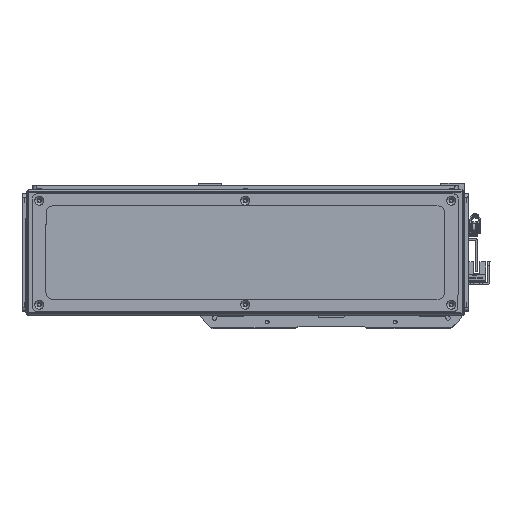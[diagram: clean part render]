
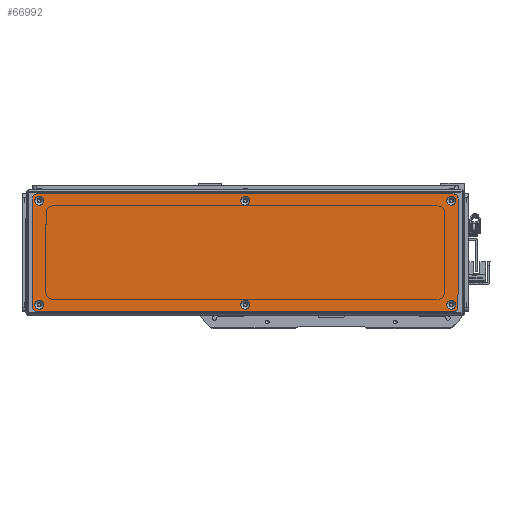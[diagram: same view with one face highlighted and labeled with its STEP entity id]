
A CAD part, front view. The second image highlights one B-rep face of the part: STEP entity #66992.
In plain terms, the highlighted planar face has unit normal (0, -1, 0).
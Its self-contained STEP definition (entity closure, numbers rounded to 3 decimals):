
#2982=FACE_BOUND('',#11651,.T.);
#2983=FACE_BOUND('',#11652,.T.);
#2984=FACE_BOUND('',#11653,.T.);
#2985=FACE_BOUND('',#11654,.T.);
#2986=FACE_BOUND('',#11655,.T.);
#2987=FACE_BOUND('',#11656,.T.);
#4476=CIRCLE('',#72262,3.45);
#4479=CIRCLE('',#72267,3.45);
#4482=CIRCLE('',#72272,3.45);
#4485=CIRCLE('',#72277,3.45);
#4488=CIRCLE('',#72282,3.45);
#4491=CIRCLE('',#72287,3.45);
#4494=CIRCLE('',#72292,3.);
#4496=CIRCLE('',#72295,3.);
#4497=CIRCLE('',#72296,3.);
#4498=CIRCLE('',#72297,3.);
#7803=FACE_OUTER_BOUND('',#11650,.T.);
#11650=EDGE_LOOP('',(#60631,#60632,#60633,#60634,#60635,#60636,#60637,#60638));
#11651=EDGE_LOOP('',(#60639));
#11652=EDGE_LOOP('',(#60640));
#11653=EDGE_LOOP('',(#60641));
#11654=EDGE_LOOP('',(#60642));
#11655=EDGE_LOOP('',(#60643));
#11656=EDGE_LOOP('',(#60644));
#19093=LINE('',#111515,#26581);
#19094=LINE('',#111519,#26582);
#19095=LINE('',#111523,#26583);
#19096=LINE('',#111526,#26584);
#26581=VECTOR('',#89352,10.);
#26582=VECTOR('',#89355,10.);
#26583=VECTOR('',#89358,10.);
#26584=VECTOR('',#89361,10.);
#32875=VERTEX_POINT('',#111445);
#32878=VERTEX_POINT('',#111455);
#32881=VERTEX_POINT('',#111465);
#32884=VERTEX_POINT('',#111475);
#32887=VERTEX_POINT('',#111485);
#32890=VERTEX_POINT('',#111495);
#32893=VERTEX_POINT('',#111505);
#32894=VERTEX_POINT('',#111506);
#32897=VERTEX_POINT('',#111514);
#32898=VERTEX_POINT('',#111516);
#32899=VERTEX_POINT('',#111518);
#32900=VERTEX_POINT('',#111520);
#32901=VERTEX_POINT('',#111522);
#32902=VERTEX_POINT('',#111524);
#42151=EDGE_CURVE('',#32875,#32875,#4476,.T.);
#42156=EDGE_CURVE('',#32878,#32878,#4479,.T.);
#42161=EDGE_CURVE('',#32881,#32881,#4482,.T.);
#42166=EDGE_CURVE('',#32884,#32884,#4485,.T.);
#42171=EDGE_CURVE('',#32887,#32887,#4488,.T.);
#42176=EDGE_CURVE('',#32890,#32890,#4491,.T.);
#42181=EDGE_CURVE('',#32893,#32894,#4494,.T.);
#42185=EDGE_CURVE('',#32893,#32897,#19093,.T.);
#42186=EDGE_CURVE('',#32898,#32897,#4496,.T.);
#42187=EDGE_CURVE('',#32898,#32899,#19094,.T.);
#42188=EDGE_CURVE('',#32900,#32899,#4497,.T.);
#42189=EDGE_CURVE('',#32900,#32901,#19095,.T.);
#42190=EDGE_CURVE('',#32902,#32901,#4498,.T.);
#42191=EDGE_CURVE('',#32902,#32894,#19096,.T.);
#60631=ORIENTED_EDGE('',*,*,#42181,.F.);
#60632=ORIENTED_EDGE('',*,*,#42185,.T.);
#60633=ORIENTED_EDGE('',*,*,#42186,.F.);
#60634=ORIENTED_EDGE('',*,*,#42187,.T.);
#60635=ORIENTED_EDGE('',*,*,#42188,.F.);
#60636=ORIENTED_EDGE('',*,*,#42189,.T.);
#60637=ORIENTED_EDGE('',*,*,#42190,.F.);
#60638=ORIENTED_EDGE('',*,*,#42191,.T.);
#60639=ORIENTED_EDGE('',*,*,#42151,.T.);
#60640=ORIENTED_EDGE('',*,*,#42156,.T.);
#60641=ORIENTED_EDGE('',*,*,#42161,.T.);
#60642=ORIENTED_EDGE('',*,*,#42166,.T.);
#60643=ORIENTED_EDGE('',*,*,#42171,.T.);
#60644=ORIENTED_EDGE('',*,*,#42176,.T.);
#63700=PLANE('',#72294);
#66992=ADVANCED_FACE('',(#7803,#2982,#2983,#2984,#2985,#2986,#2987),#63700,
 .T.);
#72262=AXIS2_PLACEMENT_3D('',#111446,#89272,#89273);
#72267=AXIS2_PLACEMENT_3D('',#111456,#89284,#89285);
#72272=AXIS2_PLACEMENT_3D('',#111466,#89296,#89297);
#72277=AXIS2_PLACEMENT_3D('',#111476,#89308,#89309);
#72282=AXIS2_PLACEMENT_3D('',#111486,#89320,#89321);
#72287=AXIS2_PLACEMENT_3D('',#111496,#89332,#89333);
#72292=AXIS2_PLACEMENT_3D('',#111507,#89344,#89345);
#72294=AXIS2_PLACEMENT_3D('',#111513,#89350,#89351);
#72295=AXIS2_PLACEMENT_3D('',#111517,#89353,#89354);
#72296=AXIS2_PLACEMENT_3D('',#111521,#89356,#89357);
#72297=AXIS2_PLACEMENT_3D('',#111525,#89359,#89360);
#89272=DIRECTION('center_axis',(0.,1.,0.));
#89273=DIRECTION('ref_axis',(1.,0.,0.));
#89284=DIRECTION('center_axis',(0.,1.,0.));
#89285=DIRECTION('ref_axis',(1.,0.,0.));
#89296=DIRECTION('center_axis',(0.,1.,0.));
#89297=DIRECTION('ref_axis',(1.,0.,0.));
#89308=DIRECTION('center_axis',(0.,1.,0.));
#89309=DIRECTION('ref_axis',(1.,0.,0.));
#89320=DIRECTION('center_axis',(0.,1.,0.));
#89321=DIRECTION('ref_axis',(1.,0.,0.));
#89332=DIRECTION('center_axis',(0.,1.,0.));
#89333=DIRECTION('ref_axis',(1.,0.,0.));
#89344=DIRECTION('center_axis',(0.,1.,0.));
#89345=DIRECTION('ref_axis',(-0.707,0.,0.707));
#89350=DIRECTION('center_axis',(0.,-1.,0.));
#89351=DIRECTION('ref_axis',(0.,0.,-1.));
#89352=DIRECTION('',(0.,0.,-1.));
#89353=DIRECTION('center_axis',(0.,1.,0.));
#89354=DIRECTION('ref_axis',(-0.707,0.,-0.707));
#89355=DIRECTION('',(1.,0.,0.));
#89356=DIRECTION('center_axis',(0.,1.,0.));
#89357=DIRECTION('ref_axis',(0.707,0.,-0.707));
#89358=DIRECTION('',(0.,0.,1.));
#89359=DIRECTION('center_axis',(0.,1.,0.));
#89360=DIRECTION('ref_axis',(0.707,0.,0.707));
#89361=DIRECTION('',(-1.,0.,0.));
#111445=CARTESIAN_POINT('',(151.05,-1.5,39.));
#111446=CARTESIAN_POINT('Origin',(154.5,-1.5,39.));
#111455=CARTESIAN_POINT('',(-3.45,-1.5,39.));
#111456=CARTESIAN_POINT('Origin',(0.,-1.5,39.));
#111465=CARTESIAN_POINT('',(-157.95,-1.5,39.));
#111466=CARTESIAN_POINT('Origin',(-154.5,-1.5,39.));
#111475=CARTESIAN_POINT('',(-157.95,-1.5,-39.));
#111476=CARTESIAN_POINT('Origin',(-154.5,-1.5,-39.));
#111485=CARTESIAN_POINT('',(-3.45,-1.5,-39.));
#111486=CARTESIAN_POINT('Origin',(0.,-1.5,-39.));
#111495=CARTESIAN_POINT('',(151.05,-1.5,-39.));
#111496=CARTESIAN_POINT('Origin',(154.5,-1.5,-39.));
#111505=CARTESIAN_POINT('',(-159.5,-1.5,41.));
#111506=CARTESIAN_POINT('',(-156.5,-1.5,44.));
#111507=CARTESIAN_POINT('Origin',(-156.5,-1.5,41.));
#111513=CARTESIAN_POINT('Origin',(0.,-1.5,0.));
#111514=CARTESIAN_POINT('',(-159.5,-1.5,-41.));
#111515=CARTESIAN_POINT('',(-159.5,-1.5,44.));
#111516=CARTESIAN_POINT('',(-156.5,-1.5,-44.));
#111517=CARTESIAN_POINT('Origin',(-156.5,-1.5,-41.));
#111518=CARTESIAN_POINT('',(156.5,-1.5,-44.));
#111519=CARTESIAN_POINT('',(-159.5,-1.5,-44.));
#111520=CARTESIAN_POINT('',(159.5,-1.5,-41.));
#111521=CARTESIAN_POINT('Origin',(156.5,-1.5,-41.));
#111522=CARTESIAN_POINT('',(159.5,-1.5,41.));
#111523=CARTESIAN_POINT('',(159.5,-1.5,-44.));
#111524=CARTESIAN_POINT('',(156.5,-1.5,44.));
#111525=CARTESIAN_POINT('Origin',(156.5,-1.5,41.));
#111526=CARTESIAN_POINT('',(159.5,-1.5,44.));
